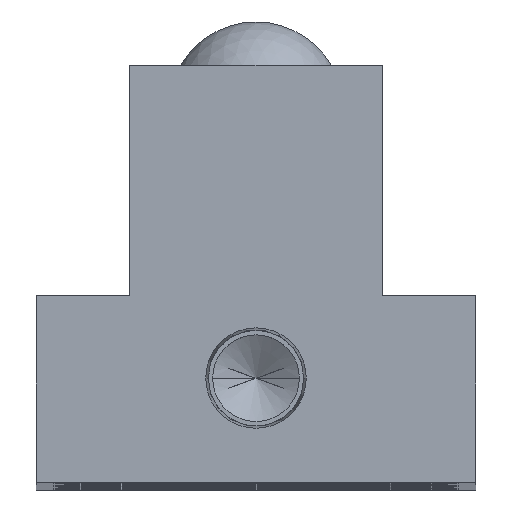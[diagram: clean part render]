
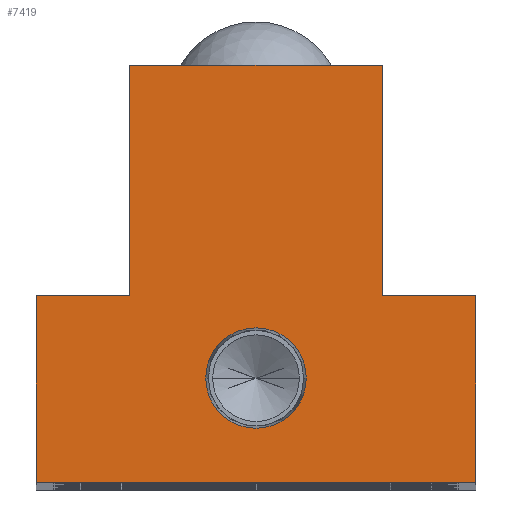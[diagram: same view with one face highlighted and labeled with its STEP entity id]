
A CAD part, top view. The second image highlights one B-rep face of the part: STEP entity #7419.
In plain terms, the highlighted planar face has unit normal (0, 0, 1).
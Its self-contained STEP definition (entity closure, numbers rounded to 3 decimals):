
#4 = VERTEX_POINT ( 'NONE', #4104 ) ;
#119 = DIRECTION ( 'NONE',  ( -1., 0., 0. ) ) ;
#184 = CARTESIAN_POINT ( 'NONE',  ( 20., 0., 0. ) ) ;
#539 = EDGE_LOOP ( 'NONE', ( #9159, #6278 ) ) ;
#612 = ORIENTED_EDGE ( 'NONE', *, *, #8162, .T. ) ;
#813 = FACE_OUTER_BOUND ( 'NONE', #7903, .T. ) ;
#857 = LINE ( 'NONE', #3117, #2599 ) ;
#948 = CARTESIAN_POINT ( 'NONE',  ( -20., 0., 0. ) ) ;
#994 = VERTEX_POINT ( 'NONE', #4292 ) ;
#1047 = LINE ( 'NONE', #9229, #8524 ) ;
#1301 = CIRCLE ( 'NONE', #2070, 4.574 ) ;
#1431 = DIRECTION ( 'NONE',  ( 0., 1., 0. ) ) ;
#1469 = ORIENTED_EDGE ( 'NONE', *, *, #7688, .T. ) ;
#1968 = LINE ( 'NONE', #948, #9404 ) ;
#1993 = EDGE_CURVE ( 'NONE', #2893, #4940, #8702, .T. ) ;
#2070 = AXIS2_PLACEMENT_3D ( 'NONE', #7588, #3287, #8326 ) ;
#2098 = ORIENTED_EDGE ( 'NONE', *, *, #6339, .T. ) ;
#2331 = FACE_BOUND ( 'NONE', #539, .T. ) ;
#2590 = VECTOR ( 'NONE', #1431, 1000. ) ;
#2599 = VECTOR ( 'NONE', #8900, 1000. ) ;
#2679 = CARTESIAN_POINT ( 'NONE',  ( 0., 0., 0. ) ) ;
#2854 = EDGE_CURVE ( 'NONE', #5673, #3388, #7861, .T. ) ;
#2893 = VERTEX_POINT ( 'NONE', #184 ) ;
#3023 = CARTESIAN_POINT ( 'NONE',  ( 4.574, 9.5, 0. ) ) ;
#3117 = CARTESIAN_POINT ( 'NONE',  ( -11.5, 17., 0. ) ) ;
#3120 = VECTOR ( 'NONE', #8993, 1000. ) ;
#3287 = DIRECTION ( 'NONE',  ( 0., 0., 1. ) ) ;
#3313 = CARTESIAN_POINT ( 'NONE',  ( -11.5, 38., 0. ) ) ;
#3316 = CARTESIAN_POINT ( 'NONE',  ( -20., 17., 0. ) ) ;
#3388 = VERTEX_POINT ( 'NONE', #3313 ) ;
#3486 = DIRECTION ( 'NONE',  ( 0., 1., 0. ) ) ;
#3559 = LINE ( 'NONE', #8265, #3120 ) ;
#3592 = ORIENTED_EDGE ( 'NONE', *, *, #1993, .T. ) ;
#3622 = DIRECTION ( 'NONE',  ( 0., 0., 1. ) ) ;
#3695 = CARTESIAN_POINT ( 'NONE',  ( -4.574, 9.5, 0. ) ) ;
#3720 = VERTEX_POINT ( 'NONE', #3695 ) ;
#3985 = VERTEX_POINT ( 'NONE', #7485 ) ;
#4083 = VERTEX_POINT ( 'NONE', #3316 ) ;
#4104 = CARTESIAN_POINT ( 'NONE',  ( -11.5, 17., 0. ) ) ;
#4129 = PLANE ( 'NONE',  #7700 ) ;
#4292 = CARTESIAN_POINT ( 'NONE',  ( -20., 0., 0. ) ) ;
#4463 = LINE ( 'NONE', #9307, #2590 ) ;
#4817 = VECTOR ( 'NONE', #3486, 1000. ) ;
#4837 = DIRECTION ( 'NONE',  ( -1., 0., 0. ) ) ;
#4884 = LINE ( 'NONE', #7239, #6600 ) ;
#4907 = DIRECTION ( 'NONE',  ( -1., 0., 0. ) ) ;
#4940 = VERTEX_POINT ( 'NONE', #8616 ) ;
#4979 = AXIS2_PLACEMENT_3D ( 'NONE', #7924, #3622, #8679 ) ;
#5180 = ORIENTED_EDGE ( 'NONE', *, *, #6774, .T. ) ;
#5243 = EDGE_CURVE ( 'NONE', #8104, #3720, #7746, .T. ) ;
#5673 = VERTEX_POINT ( 'NONE', #5882 ) ;
#5693 = VECTOR ( 'NONE', #119, 1000. ) ;
#5847 = EDGE_CURVE ( 'NONE', #3720, #8104, #1301, .T. ) ;
#5882 = CARTESIAN_POINT ( 'NONE',  ( 11.5, 38., 0. ) ) ;
#6278 = ORIENTED_EDGE ( 'NONE', *, *, #5847, .F. ) ;
#6339 = EDGE_CURVE ( 'NONE', #994, #2893, #4884, .T. ) ;
#6510 = DIRECTION ( 'NONE',  ( 1., 0., 0. ) ) ;
#6582 = EDGE_CURVE ( 'NONE', #4, #4083, #3559, .T. ) ;
#6600 = VECTOR ( 'NONE', #6510, 1000. ) ;
#6774 = EDGE_CURVE ( 'NONE', #4940, #3985, #1047, .T. ) ;
#7239 = CARTESIAN_POINT ( 'NONE',  ( 20., 0., 0. ) ) ;
#7419 = ADVANCED_FACE ( 'NONE', ( #2331, #813 ), #4129, .F. ) ;
#7485 = CARTESIAN_POINT ( 'NONE',  ( 11.5, 17., 0. ) ) ;
#7523 = ORIENTED_EDGE ( 'NONE', *, *, #2854, .T. ) ;
#7587 = DIRECTION ( 'NONE',  ( 0., -1., 0. ) ) ;
#7588 = CARTESIAN_POINT ( 'NONE',  ( 0., 9.5, 0. ) ) ;
#7688 = EDGE_CURVE ( 'NONE', #4083, #994, #1968, .T. ) ;
#7700 = AXIS2_PLACEMENT_3D ( 'NONE', #2679, #7716, #4837 ) ;
#7716 = DIRECTION ( 'NONE',  ( 0., 0., -1. ) ) ;
#7746 = CIRCLE ( 'NONE', #4979, 4.574 ) ;
#7791 = CARTESIAN_POINT ( 'NONE',  ( 20., 17., 0. ) ) ;
#7861 = LINE ( 'NONE', #8075, #5693 ) ;
#7903 = EDGE_LOOP ( 'NONE', ( #5180, #8387, #7523, #612, #8867, #1469, #2098, #3592 ) ) ;
#7924 = CARTESIAN_POINT ( 'NONE',  ( 0., 9.5, 0. ) ) ;
#8075 = CARTESIAN_POINT ( 'NONE',  ( 11.5, 38., 0. ) ) ;
#8104 = VERTEX_POINT ( 'NONE', #3023 ) ;
#8162 = EDGE_CURVE ( 'NONE', #3388, #4, #857, .T. ) ;
#8265 = CARTESIAN_POINT ( 'NONE',  ( -11.5, 17., 0. ) ) ;
#8326 = DIRECTION ( 'NONE',  ( 1., 0., 0. ) ) ;
#8387 = ORIENTED_EDGE ( 'NONE', *, *, #9369, .T. ) ;
#8524 = VECTOR ( 'NONE', #4907, 1000. ) ;
#8616 = CARTESIAN_POINT ( 'NONE',  ( 20., 17., 0. ) ) ;
#8679 = DIRECTION ( 'NONE',  ( 1., 0., 0. ) ) ;
#8702 = LINE ( 'NONE', #7791, #4817 ) ;
#8867 = ORIENTED_EDGE ( 'NONE', *, *, #6582, .T. ) ;
#8900 = DIRECTION ( 'NONE',  ( 0., -1., 0. ) ) ;
#8993 = DIRECTION ( 'NONE',  ( -1., 0., 0. ) ) ;
#9159 = ORIENTED_EDGE ( 'NONE', *, *, #5243, .F. ) ;
#9229 = CARTESIAN_POINT ( 'NONE',  ( 20., 17., 0. ) ) ;
#9307 = CARTESIAN_POINT ( 'NONE',  ( 11.5, 17., 0. ) ) ;
#9369 = EDGE_CURVE ( 'NONE', #3985, #5673, #4463, .T. ) ;
#9404 = VECTOR ( 'NONE', #7587, 1000. ) ;
